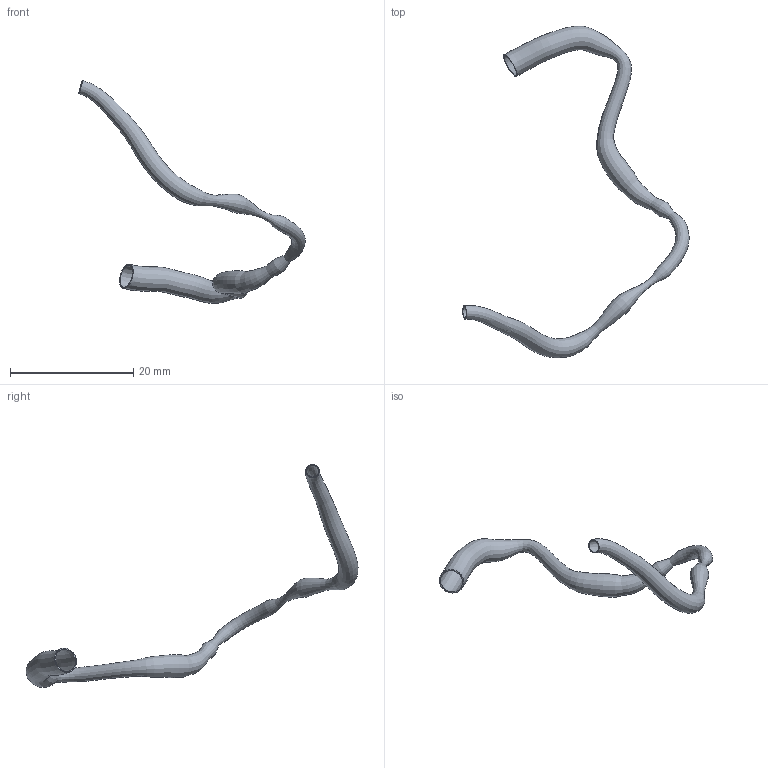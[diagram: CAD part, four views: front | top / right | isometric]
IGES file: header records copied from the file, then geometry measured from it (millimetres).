
Global section: file name: C:\Documents and Settings\Administrator\Desktop\FDA Bifurcation win\RawData_for_IGES\HRCA_Data\20000201.093459\IGES\20000201.093459.RCA.SEG.ED.igs; native system: Rhinoceros ( May 19 2006 ); preprocessor: Trout Lake IGES 012 May 19 2006; date: 100728.200650; units: centimetre
Bounding box: 36.77 x 53.9 x 36.22 mm (x, y, z)
Surface area: 1822.2 mm2 (no closed solid volume)
Topology: 0 solids, 0 shells, 4 faces, 12 edges, 8 vertices
Faces by surface type: bspline 4
